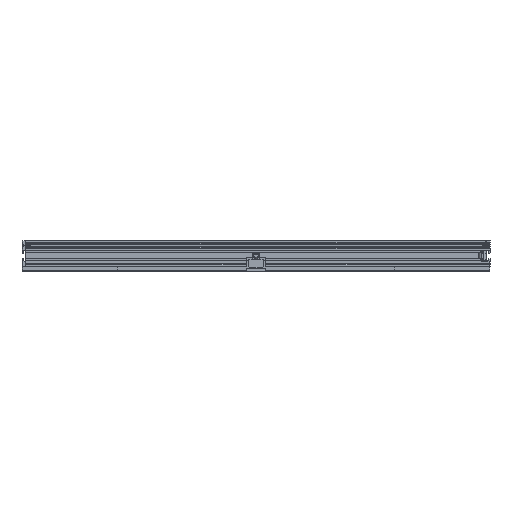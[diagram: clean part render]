
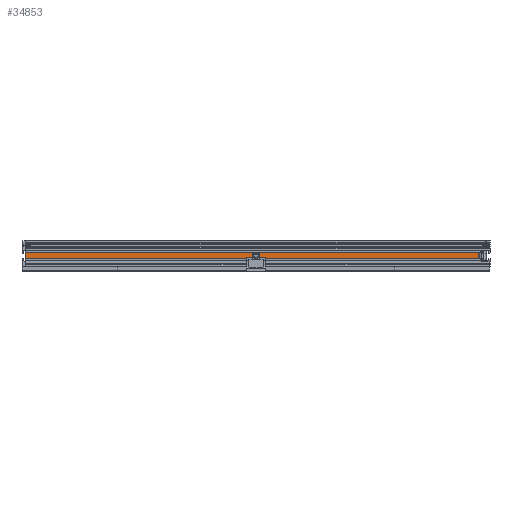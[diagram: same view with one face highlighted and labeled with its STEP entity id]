
A CAD part, top view. The second image highlights one B-rep face of the part: STEP entity #34853.
In plain terms, the highlighted planar face has unit normal (0, 0, 1).
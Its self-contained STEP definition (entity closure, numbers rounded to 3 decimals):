
#168 = ORIENTED_EDGE ( 'NONE', *, *, #352, .F. ) ;
#298 = VECTOR ( 'NONE', #38981, 1000. ) ;
#352 = EDGE_CURVE ( 'NONE', #37390, #22662, #26307, .T. ) ;
#1620 = EDGE_LOOP ( 'NONE', ( #14762, #8163, #168, #15909 ) ) ;
#3073 = CARTESIAN_POINT ( 'NONE',  ( -124.5, 6.35, 92. ) ) ;
#5677 = VECTOR ( 'NONE', #34523, 1000. ) ;
#7646 = CARTESIAN_POINT ( 'NONE',  ( 120.5, 9.65, 92. ) ) ;
#8163 = ORIENTED_EDGE ( 'NONE', *, *, #20397, .T. ) ;
#8638 = DIRECTION ( 'NONE',  ( -1., 0., 0. ) ) ;
#11946 = DIRECTION ( 'NONE',  ( 0., 1., 0. ) ) ;
#11954 = VECTOR ( 'NONE', #21469, 1000. ) ;
#11991 = FACE_OUTER_BOUND ( 'NONE', #1620, .T. ) ;
#12755 = VECTOR ( 'NONE', #11946, 1000. ) ;
#13655 = CARTESIAN_POINT ( 'NONE',  ( -126.5, 6.35, 92. ) ) ;
#14762 = ORIENTED_EDGE ( 'NONE', *, *, #24792, .T. ) ;
#15909 = ORIENTED_EDGE ( 'NONE', *, *, #36666, .F. ) ;
#16815 = PLANE ( 'NONE',  #25585 ) ;
#20114 = CARTESIAN_POINT ( 'NONE',  ( -126.5, 6.35, 92. ) ) ;
#20397 = EDGE_CURVE ( 'NONE', #37971, #22662, #20839, .T. ) ;
#20839 = LINE ( 'NONE', #27533, #12755 ) ;
#21469 = DIRECTION ( 'NONE',  ( 0., 1., 0. ) ) ;
#22506 = VERTEX_POINT ( 'NONE', #3073 ) ;
#22662 = VERTEX_POINT ( 'NONE', #7646 ) ;
#24792 = EDGE_CURVE ( 'NONE', #22506, #37971, #25065, .T. ) ;
#25065 = LINE ( 'NONE', #13655, #5677 ) ;
#25585 = AXIS2_PLACEMENT_3D ( 'NONE', #20114, #35797, #8638 ) ;
#26307 = LINE ( 'NONE', #38581, #298 ) ;
#27533 = CARTESIAN_POINT ( 'NONE',  ( 120.5, 6.35, 92. ) ) ;
#30394 = CARTESIAN_POINT ( 'NONE',  ( -124.5, 2., 92. ) ) ;
#31114 = CARTESIAN_POINT ( 'NONE',  ( -124.5, 9.65, 92. ) ) ;
#34523 = DIRECTION ( 'NONE',  ( 1., 0., 0. ) ) ;
#34853 = ADVANCED_FACE ( 'NONE', ( #11991 ), #16815, .F. ) ;
#35797 = DIRECTION ( 'NONE',  ( 0., 0., -1. ) ) ;
#36666 = EDGE_CURVE ( 'NONE', #22506, #37390, #38402, .T. ) ;
#37222 = CARTESIAN_POINT ( 'NONE',  ( 120.5, 6.35, 92. ) ) ;
#37390 = VERTEX_POINT ( 'NONE', #31114 ) ;
#37971 = VERTEX_POINT ( 'NONE', #37222 ) ;
#38402 = LINE ( 'NONE', #30394, #11954 ) ;
#38581 = CARTESIAN_POINT ( 'NONE',  ( -126.5, 9.65, 92. ) ) ;
#38981 = DIRECTION ( 'NONE',  ( 1., 0., 0. ) ) ;
